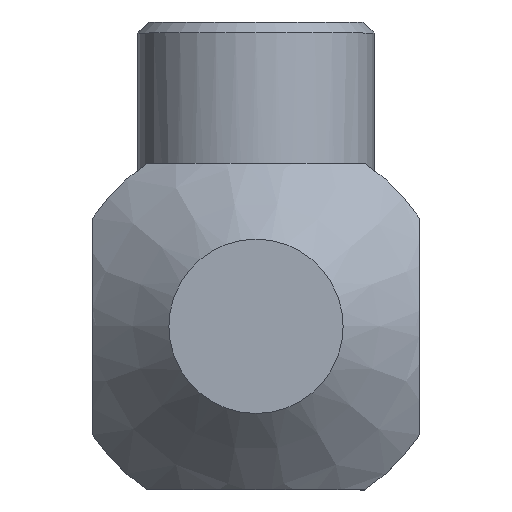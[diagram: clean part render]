
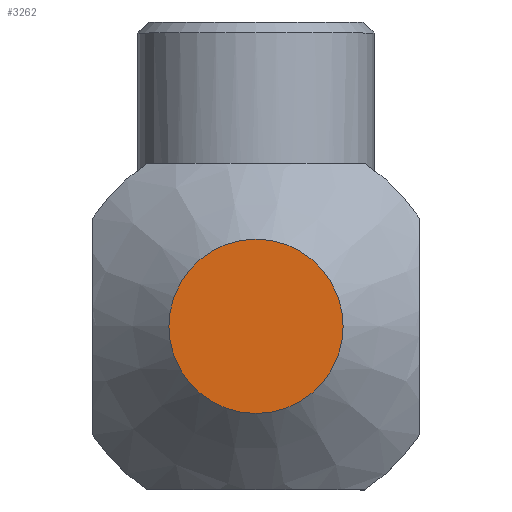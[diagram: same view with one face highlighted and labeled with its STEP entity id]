
A CAD part, top view. The second image highlights one B-rep face of the part: STEP entity #3262.
In plain terms, the highlighted planar face has unit normal (0, 0, 1) as drawn and (-1, 0, 0) by its records, which use the part's own axes.
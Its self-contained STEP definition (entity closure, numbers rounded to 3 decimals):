
#372 = PLANE ( 'NONE',  #3549 ) ;
#1005 = VERTEX_POINT ( 'NONE', #2537 ) ;
#1394 = FACE_OUTER_BOUND ( 'NONE', #2645, .T. ) ;
#1419 = CIRCLE ( 'NONE', #2210, 4. ) ;
#1555 = CARTESIAN_POINT ( 'NONE',  ( -51., 0., 0. ) ) ;
#1585 = DIRECTION ( 'NONE',  ( -1., 0., 0. ) ) ;
#1872 = DIRECTION ( 'NONE',  ( 0., 0., -1. ) ) ;
#2210 = AXIS2_PLACEMENT_3D ( 'NONE', #1555, #3814, #1872 ) ;
#2463 = ORIENTED_EDGE ( 'NONE', *, *, #3180, .F. ) ;
#2537 = CARTESIAN_POINT ( 'NONE',  ( -51., 0., -4. ) ) ;
#2558 = CARTESIAN_POINT ( 'NONE',  ( -51., -9., 0. ) ) ;
#2645 = EDGE_LOOP ( 'NONE', ( #2463 ) ) ;
#3180 = EDGE_CURVE ( 'NONE', #1005, #1005, #1419, .T. ) ;
#3262 = ADVANCED_FACE ( 'NONE', ( #1394 ), #372, .T. ) ;
#3549 = AXIS2_PLACEMENT_3D ( 'NONE', #2558, #1585, #3847 ) ;
#3814 = DIRECTION ( 'NONE',  ( 1., 0., 0. ) ) ;
#3847 = DIRECTION ( 'NONE',  ( 0., 0., 1. ) ) ;
